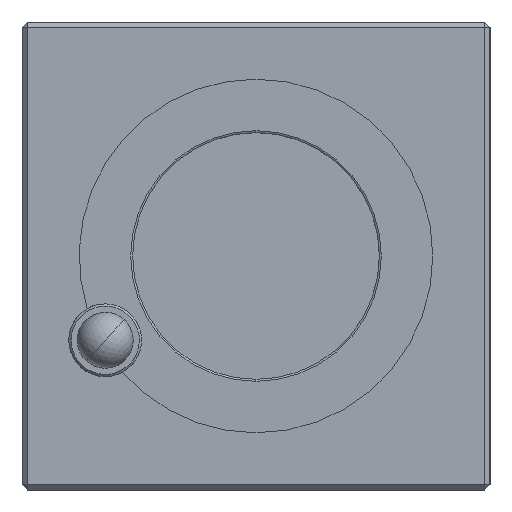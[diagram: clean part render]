
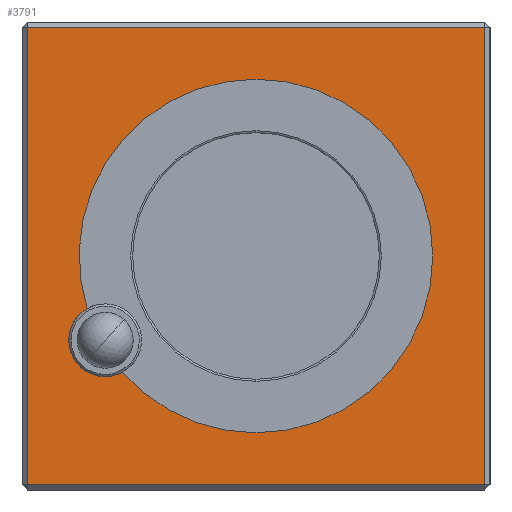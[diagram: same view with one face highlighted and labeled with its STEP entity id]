
A CAD part, left-side view. The second image highlights one B-rep face of the part: STEP entity #3791.
In plain terms, the highlighted planar face has unit normal (-1, 0, 0).
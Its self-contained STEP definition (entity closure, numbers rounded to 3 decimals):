
#95 = FACE_BOUND ( 'NONE', #1157, .T. ) ;
#196 = CARTESIAN_POINT ( 'NONE',  ( 0., 22.5, 22. ) ) ;
#251 = CIRCLE ( 'NONE', #9885, 17. ) ;
#609 = AXIS2_PLACEMENT_3D ( 'NONE', #1655, #8597, #1561 ) ;
#726 = CARTESIAN_POINT ( 'NONE',  ( 0., 22., 22. ) ) ;
#815 = CARTESIAN_POINT ( 'NONE',  ( 0., 0., 0. ) ) ;
#844 = CARTESIAN_POINT ( 'NONE',  ( 0., 22., -22. ) ) ;
#897 = VERTEX_POINT ( 'NONE', #7049 ) ;
#951 = EDGE_CURVE ( 'NONE', #897, #2277, #1777, .T. ) ;
#1019 = CARTESIAN_POINT ( 'NONE',  ( 0., -22., 22.5 ) ) ;
#1025 = EDGE_CURVE ( 'NONE', #4290, #4040, #4898, .T. ) ;
#1088 = DIRECTION ( 'NONE',  ( 0., 0., 1. ) ) ;
#1137 = CARTESIAN_POINT ( 'NONE',  ( 0., -22.5, -22. ) ) ;
#1138 = CARTESIAN_POINT ( 'NONE',  ( 0., -22., 22. ) ) ;
#1157 = EDGE_LOOP ( 'NONE', ( #4302, #3676, #1401, #4938, #9425 ) ) ;
#1300 = ORIENTED_EDGE ( 'NONE', *, *, #3928, .T. ) ;
#1401 = ORIENTED_EDGE ( 'NONE', *, *, #1025, .F. ) ;
#1561 = DIRECTION ( 'NONE',  ( 0., 0., 1. ) ) ;
#1615 = EDGE_CURVE ( 'NONE', #4596, #4290, #251, .T. ) ;
#1618 = VERTEX_POINT ( 'NONE', #726 ) ;
#1655 = CARTESIAN_POINT ( 'NONE',  ( 0., 22.5, -22.5 ) ) ;
#1677 = VECTOR ( 'NONE', #6342, 1000. ) ;
#1777 = LINE ( 'NONE', #1019, #1677 ) ;
#1865 = EDGE_CURVE ( 'NONE', #4040, #8540, #2022, .T. ) ;
#2022 = CIRCLE ( 'NONE', #7641, 17. ) ;
#2063 = DIRECTION ( 'NONE',  ( -1., 0., 0. ) ) ;
#2098 = EDGE_CURVE ( 'NONE', #5904, #4596, #6203, .T. ) ;
#2156 = CARTESIAN_POINT ( 'NONE',  ( 0., 22., -22.5 ) ) ;
#2168 = CARTESIAN_POINT ( 'NONE',  ( 0., 0., -17. ) ) ;
#2277 = VERTEX_POINT ( 'NONE', #1138 ) ;
#3022 = DIRECTION ( 'NONE',  ( 0., 0., 1. ) ) ;
#3234 = DIRECTION ( 'NONE',  ( 0., 0., 1. ) ) ;
#3676 = ORIENTED_EDGE ( 'NONE', *, *, #1865, .F. ) ;
#3791 = ADVANCED_FACE ( 'NONE', ( #6876, #95 ), #7692, .T. ) ;
#3928 = EDGE_CURVE ( 'NONE', #2277, #1618, #7075, .T. ) ;
#3985 = ORIENTED_EDGE ( 'NONE', *, *, #951, .T. ) ;
#4018 = CARTESIAN_POINT ( 'NONE',  ( 0., 0., 0. ) ) ;
#4040 = VERTEX_POINT ( 'NONE', #7484 ) ;
#4290 = VERTEX_POINT ( 'NONE', #2168 ) ;
#4302 = ORIENTED_EDGE ( 'NONE', *, *, #6709, .F. ) ;
#4555 = EDGE_CURVE ( 'NONE', #1618, #4909, #9061, .T. ) ;
#4596 = VERTEX_POINT ( 'NONE', #6032 ) ;
#4607 = AXIS2_PLACEMENT_3D ( 'NONE', #9806, #2063, #9712 ) ;
#4671 = VECTOR ( 'NONE', #5221, 1000. ) ;
#4860 = VECTOR ( 'NONE', #8688, 1000. ) ;
#4875 = DIRECTION ( 'NONE',  ( -1., 0., 0. ) ) ;
#4898 = CIRCLE ( 'NONE', #7470, 17. ) ;
#4909 = VERTEX_POINT ( 'NONE', #844 ) ;
#4938 = ORIENTED_EDGE ( 'NONE', *, *, #1615, .F. ) ;
#4982 = EDGE_CURVE ( 'NONE', #4909, #897, #7174, .T. ) ;
#5221 = DIRECTION ( 'NONE',  ( 0., 0., -1. ) ) ;
#5369 = ORIENTED_EDGE ( 'NONE', *, *, #4555, .T. ) ;
#5444 = CARTESIAN_POINT ( 'NONE',  ( 0., 0., 0. ) ) ;
#5619 = DIRECTION ( 'NONE',  ( 0., 1., 0. ) ) ;
#5904 = VERTEX_POINT ( 'NONE', #7828 ) ;
#6032 = CARTESIAN_POINT ( 'NONE',  ( 0., 12.817, -11.169 ) ) ;
#6203 = CIRCLE ( 'NONE', #4607, 3.5 ) ;
#6342 = DIRECTION ( 'NONE',  ( 0., 0., 1. ) ) ;
#6380 = AXIS2_PLACEMENT_3D ( 'NONE', #6560, #4875, #1088 ) ;
#6560 = CARTESIAN_POINT ( 'NONE',  ( 0., 14.5, -8.1 ) ) ;
#6637 = EDGE_LOOP ( 'NONE', ( #1300, #5369, #8070, #3985 ) ) ;
#6709 = EDGE_CURVE ( 'NONE', #8540, #5904, #8160, .T. ) ;
#6876 = FACE_OUTER_BOUND ( 'NONE', #6637, .T. ) ;
#6906 = DIRECTION ( 'NONE',  ( -1., 0., 0. ) ) ;
#7049 = CARTESIAN_POINT ( 'NONE',  ( 0., -22., -22. ) ) ;
#7075 = LINE ( 'NONE', #196, #8821 ) ;
#7174 = LINE ( 'NONE', #1137, #4860 ) ;
#7470 = AXIS2_PLACEMENT_3D ( 'NONE', #4018, #6906, #8534 ) ;
#7484 = CARTESIAN_POINT ( 'NONE',  ( 0., 0., 17. ) ) ;
#7609 = DIRECTION ( 'NONE',  ( -1., 0., 0. ) ) ;
#7641 = AXIS2_PLACEMENT_3D ( 'NONE', #815, #7609, #3022 ) ;
#7692 = PLANE ( 'NONE',  #609 ) ;
#7828 = CARTESIAN_POINT ( 'NONE',  ( 0., 14.5, -11.6 ) ) ;
#8070 = ORIENTED_EDGE ( 'NONE', *, *, #4982, .T. ) ;
#8160 = CIRCLE ( 'NONE', #6380, 3.5 ) ;
#8466 = CARTESIAN_POINT ( 'NONE',  ( 0., 16.23, -5.058 ) ) ;
#8528 = DIRECTION ( 'NONE',  ( -1., 0., 0. ) ) ;
#8534 = DIRECTION ( 'NONE',  ( 0., 0., 1. ) ) ;
#8540 = VERTEX_POINT ( 'NONE', #8466 ) ;
#8597 = DIRECTION ( 'NONE',  ( -1., 0., 0. ) ) ;
#8688 = DIRECTION ( 'NONE',  ( 0., -1., 0. ) ) ;
#8821 = VECTOR ( 'NONE', #5619, 1000. ) ;
#9061 = LINE ( 'NONE', #2156, #4671 ) ;
#9425 = ORIENTED_EDGE ( 'NONE', *, *, #2098, .F. ) ;
#9712 = DIRECTION ( 'NONE',  ( 0., 0., 1. ) ) ;
#9806 = CARTESIAN_POINT ( 'NONE',  ( 0., 14.5, -8.1 ) ) ;
#9885 = AXIS2_PLACEMENT_3D ( 'NONE', #5444, #8528, #3234 ) ;
